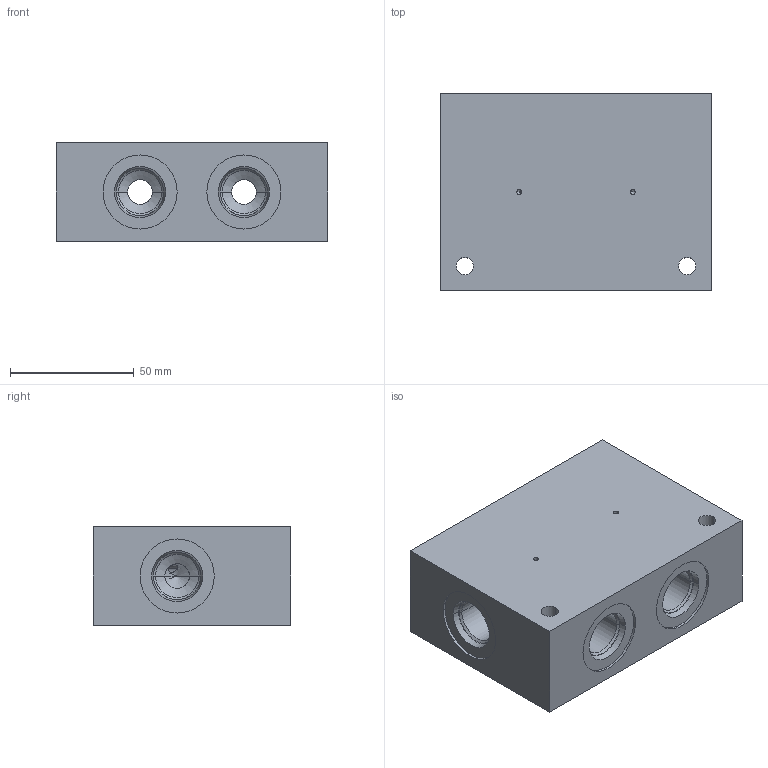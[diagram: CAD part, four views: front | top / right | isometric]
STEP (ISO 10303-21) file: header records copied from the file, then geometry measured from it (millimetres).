
FILE_DESCRIPTION((''),'2;1');
FILE_NAME('428009','2023-10-11T',('l.soukupova'),(''),'PRO/ENGINEER BY PARAMETRIC TECHNOLOGY CORPORATION, 2015440','PRO/ENGINEER BY PARAMETRIC TECHNOLOGY CORPORATION, 2015440','');
FILE_SCHEMA(('AUTOMOTIVE_DESIGN { 1 0 10303 214 1 1 1 1 }'));
Length unit declared in the file: millimetre
Products named in the file (1): 428009
Bounding box: 110 x 80 x 40 mm (x, y, z)
Volume: 292251 mm3; surface area: 50201.7 mm2
Topology: 1 solids, 7 shells, 138 faces, 490 edges, 422 vertices
Faces by surface type: cylinder 68, cone 52, plane 18
Entity records: 7892 total; most frequent: CARTESIAN_POINT 1789, DIRECTION 928, ORIENTED_EDGE 592, PRESENTATION_STYLE_ASSIGNMENT 557, STYLED_ITEM 531, CURVE_STYLE 524, AXIS2_PLACEMENT_3D 313, EDGE_CURVE 308
